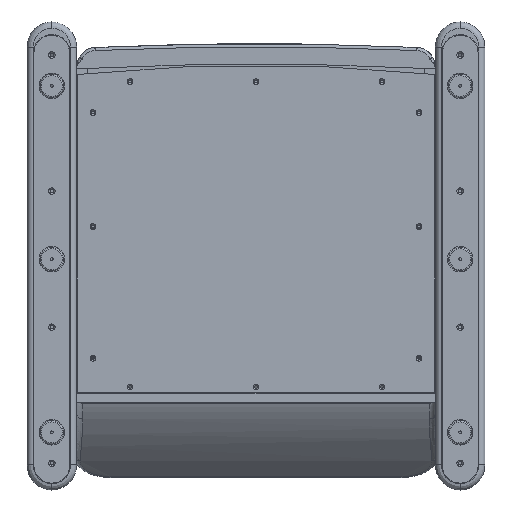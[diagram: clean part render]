
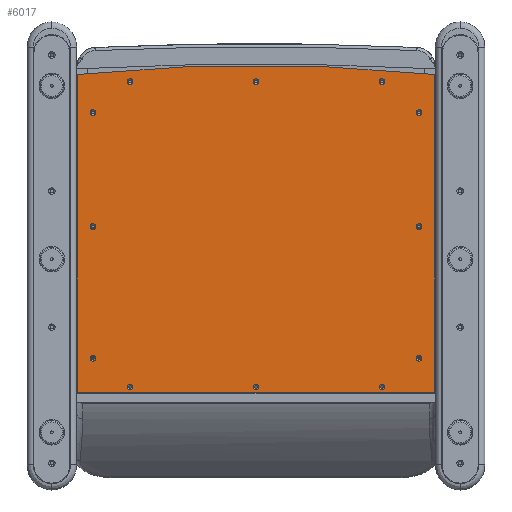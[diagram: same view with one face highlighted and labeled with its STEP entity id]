
A CAD part, front view. The second image highlights one B-rep face of the part: STEP entity #6017.
In plain terms, the highlighted planar face has unit normal (0, -1, 0).
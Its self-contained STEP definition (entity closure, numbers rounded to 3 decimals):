
#292=FACE_BOUND('',#2077,.T.);
#293=FACE_BOUND('',#2078,.T.);
#294=FACE_BOUND('',#2079,.T.);
#295=FACE_BOUND('',#2080,.T.);
#296=FACE_BOUND('',#2081,.T.);
#297=FACE_BOUND('',#2082,.T.);
#298=FACE_BOUND('',#2083,.T.);
#299=FACE_BOUND('',#2084,.T.);
#300=FACE_BOUND('',#2085,.T.);
#301=FACE_BOUND('',#2086,.T.);
#302=FACE_BOUND('',#2087,.T.);
#303=FACE_BOUND('',#2088,.T.);
#396=PLANE('',#6697);
#676=LINE('',#11843,#1061);
#679=LINE('',#11852,#1064);
#682=LINE('',#11859,#1067);
#1061=VECTOR('',#8109,1000.);
#1064=VECTOR('',#8118,1000.);
#1067=VECTOR('',#8127,1000.);
#1617=FACE_OUTER_BOUND('',#2076,.T.);
#2076=EDGE_LOOP('',(#5001,#5002,#5003,#5004));
#2077=EDGE_LOOP('',(#5005));
#2078=EDGE_LOOP('',(#5006));
#2079=EDGE_LOOP('',(#5007));
#2080=EDGE_LOOP('',(#5008));
#2081=EDGE_LOOP('',(#5009));
#2082=EDGE_LOOP('',(#5010));
#2083=EDGE_LOOP('',(#5011));
#2084=EDGE_LOOP('',(#5012));
#2085=EDGE_LOOP('',(#5013));
#2086=EDGE_LOOP('',(#5014));
#2087=EDGE_LOOP('',(#5015));
#2088=EDGE_LOOP('',(#5016));
#2495=CIRCLE('',#6632,4.7);
#2498=CIRCLE('',#6637,4.7);
#2501=CIRCLE('',#6642,4.7);
#2504=CIRCLE('',#6647,4.7);
#2507=CIRCLE('',#6652,4.7);
#2510=CIRCLE('',#6657,4.7);
#2513=CIRCLE('',#6662,4.7);
#2516=CIRCLE('',#6667,4.7);
#2519=CIRCLE('',#6672,4.7);
#2522=CIRCLE('',#6677,4.7);
#2525=CIRCLE('',#6682,4.7);
#2528=CIRCLE('',#6687,4.7);
#2531=CIRCLE('',#6695,2701.256);
#2897=VERTEX_POINT('',#11718);
#2900=VERTEX_POINT('',#11728);
#2903=VERTEX_POINT('',#11738);
#2906=VERTEX_POINT('',#11748);
#2909=VERTEX_POINT('',#11758);
#2912=VERTEX_POINT('',#11768);
#2915=VERTEX_POINT('',#11778);
#2918=VERTEX_POINT('',#11788);
#2921=VERTEX_POINT('',#11798);
#2924=VERTEX_POINT('',#11808);
#2927=VERTEX_POINT('',#11818);
#2930=VERTEX_POINT('',#11828);
#2933=VERTEX_POINT('',#11837);
#2935=VERTEX_POINT('',#11841);
#2938=VERTEX_POINT('',#11851);
#2939=VERTEX_POINT('',#11855);
#3591=EDGE_CURVE('',#2897,#2897,#2495,.T.);
#3596=EDGE_CURVE('',#2900,#2900,#2498,.T.);
#3601=EDGE_CURVE('',#2903,#2903,#2501,.T.);
#3606=EDGE_CURVE('',#2906,#2906,#2504,.T.);
#3611=EDGE_CURVE('',#2909,#2909,#2507,.T.);
#3616=EDGE_CURVE('',#2912,#2912,#2510,.T.);
#3621=EDGE_CURVE('',#2915,#2915,#2513,.T.);
#3626=EDGE_CURVE('',#2918,#2918,#2516,.T.);
#3631=EDGE_CURVE('',#2921,#2921,#2519,.T.);
#3636=EDGE_CURVE('',#2924,#2924,#2522,.T.);
#3641=EDGE_CURVE('',#2927,#2927,#2525,.T.);
#3646=EDGE_CURVE('',#2930,#2930,#2528,.T.);
#3652=EDGE_CURVE('',#2933,#2935,#676,.T.);
#3656=EDGE_CURVE('',#2935,#2938,#679,.T.);
#3658=EDGE_CURVE('',#2939,#2938,#2531,.T.);
#3660=EDGE_CURVE('',#2933,#2939,#682,.T.);
#5001=ORIENTED_EDGE('',*,*,#3660,.F.);
#5002=ORIENTED_EDGE('',*,*,#3652,.T.);
#5003=ORIENTED_EDGE('',*,*,#3656,.T.);
#5004=ORIENTED_EDGE('',*,*,#3658,.F.);
#5005=ORIENTED_EDGE('',*,*,#3621,.F.);
#5006=ORIENTED_EDGE('',*,*,#3646,.F.);
#5007=ORIENTED_EDGE('',*,*,#3641,.F.);
#5008=ORIENTED_EDGE('',*,*,#3636,.F.);
#5009=ORIENTED_EDGE('',*,*,#3631,.F.);
#5010=ORIENTED_EDGE('',*,*,#3626,.F.);
#5011=ORIENTED_EDGE('',*,*,#3616,.F.);
#5012=ORIENTED_EDGE('',*,*,#3611,.F.);
#5013=ORIENTED_EDGE('',*,*,#3606,.F.);
#5014=ORIENTED_EDGE('',*,*,#3601,.F.);
#5015=ORIENTED_EDGE('',*,*,#3596,.F.);
#5016=ORIENTED_EDGE('',*,*,#3591,.F.);
#6017=ADVANCED_FACE('',(#1617,#292,#293,#294,#295,#296,#297,#298,#299,#300,
#301,#302,#303),#396,.F.);
#6632=AXIS2_PLACEMENT_3D('',#11720,#7965,#7966);
#6637=AXIS2_PLACEMENT_3D('',#11730,#7977,#7978);
#6642=AXIS2_PLACEMENT_3D('',#11740,#7989,#7990);
#6647=AXIS2_PLACEMENT_3D('',#11750,#8001,#8002);
#6652=AXIS2_PLACEMENT_3D('',#11760,#8013,#8014);
#6657=AXIS2_PLACEMENT_3D('',#11770,#8025,#8026);
#6662=AXIS2_PLACEMENT_3D('',#11780,#8037,#8038);
#6667=AXIS2_PLACEMENT_3D('',#11790,#8049,#8050);
#6672=AXIS2_PLACEMENT_3D('',#11800,#8061,#8062);
#6677=AXIS2_PLACEMENT_3D('',#11810,#8073,#8074);
#6682=AXIS2_PLACEMENT_3D('',#11820,#8085,#8086);
#6687=AXIS2_PLACEMENT_3D('',#11830,#8097,#8098);
#6695=AXIS2_PLACEMENT_3D('',#11856,#8122,#8123);
#6697=AXIS2_PLACEMENT_3D('',#11860,#8128,#8129);
#7965=DIRECTION('center_axis',(0.,-1.,0.));
#7966=DIRECTION('ref_axis',(0.,0.,-1.));
#7977=DIRECTION('center_axis',(0.,-1.,0.));
#7978=DIRECTION('ref_axis',(0.,0.,-1.));
#7989=DIRECTION('center_axis',(0.,-1.,0.));
#7990=DIRECTION('ref_axis',(0.,0.,-1.));
#8001=DIRECTION('center_axis',(0.,-1.,0.));
#8002=DIRECTION('ref_axis',(0.,0.,-1.));
#8013=DIRECTION('center_axis',(0.,-1.,0.));
#8014=DIRECTION('ref_axis',(0.,0.,-1.));
#8025=DIRECTION('center_axis',(0.,-1.,0.));
#8026=DIRECTION('ref_axis',(0.,0.,-1.));
#8037=DIRECTION('center_axis',(0.,-1.,0.));
#8038=DIRECTION('ref_axis',(0.,0.,-1.));
#8049=DIRECTION('center_axis',(0.,-1.,0.));
#8050=DIRECTION('ref_axis',(0.,0.,-1.));
#8061=DIRECTION('center_axis',(0.,-1.,0.));
#8062=DIRECTION('ref_axis',(0.,0.,-1.));
#8073=DIRECTION('center_axis',(0.,-1.,0.));
#8074=DIRECTION('ref_axis',(0.,0.,-1.));
#8085=DIRECTION('center_axis',(0.,-1.,0.));
#8086=DIRECTION('ref_axis',(0.,0.,-1.));
#8097=DIRECTION('center_axis',(0.,-1.,0.));
#8098=DIRECTION('ref_axis',(0.,0.,-1.));
#8109=DIRECTION('',(1.,0.,0.));
#8118=DIRECTION('',(0.,0.,1.));
#8122=DIRECTION('center_axis',(0.,1.,0.));
#8123=DIRECTION('ref_axis',(0.,0.,1.));
#8127=DIRECTION('',(0.,0.,1.));
#8128=DIRECTION('center_axis',(0.,1.,0.));
#8129=DIRECTION('ref_axis',(1.,0.,0.));
#11718=CARTESIAN_POINT('',(0.,173.,-202.8));
#11720=CARTESIAN_POINT('Origin',(0.,173.,-207.5));
#11728=CARTESIAN_POINT('',(-203.526,173.,-202.8));
#11730=CARTESIAN_POINT('Origin',(-203.526,173.,-207.5));
#11738=CARTESIAN_POINT('',(-263.526,173.,-156.3));
#11740=CARTESIAN_POINT('Origin',(-263.526,173.,-161.));
#11748=CARTESIAN_POINT('',(-263.526,173.,56.35));
#11750=CARTESIAN_POINT('Origin',(-263.526,173.,51.65));
#11758=CARTESIAN_POINT('',(-263.526,173.,240.85));
#11760=CARTESIAN_POINT('Origin',(-263.526,173.,236.15));
#11768=CARTESIAN_POINT('',(-203.526,173.,290.85));
#11770=CARTESIAN_POINT('Origin',(-203.526,173.,286.15));
#11778=CARTESIAN_POINT('',(0.,173.,290.85));
#11780=CARTESIAN_POINT('Origin',(0.,173.,286.15));
#11788=CARTESIAN_POINT('',(203.526,173.,-202.8));
#11790=CARTESIAN_POINT('Origin',(203.526,173.,-207.5));
#11798=CARTESIAN_POINT('',(263.526,173.,-156.3));
#11800=CARTESIAN_POINT('Origin',(263.526,173.,-161.));
#11808=CARTESIAN_POINT('',(263.526,173.,56.35));
#11810=CARTESIAN_POINT('Origin',(263.526,173.,51.65));
#11818=CARTESIAN_POINT('',(263.526,173.,240.85));
#11820=CARTESIAN_POINT('Origin',(263.526,173.,236.15));
#11828=CARTESIAN_POINT('',(203.526,173.,290.85));
#11830=CARTESIAN_POINT('Origin',(203.526,173.,286.15));
#11837=CARTESIAN_POINT('',(-288.526,173.,-216.));
#11841=CARTESIAN_POINT('',(288.526,173.,-216.));
#11843=CARTESIAN_POINT('',(-288.526,173.,-216.));
#11851=CARTESIAN_POINT('',(288.526,173.,297.65));
#11852=CARTESIAN_POINT('',(288.526,173.,-196.));
#11855=CARTESIAN_POINT('',(-288.526,173.,297.65));
#11856=CARTESIAN_POINT('Origin',(0.,173.,-2388.153));
#11859=CARTESIAN_POINT('',(-288.526,173.,-196.));
#11860=CARTESIAN_POINT('Origin',(0.,173.,-2388.153));
